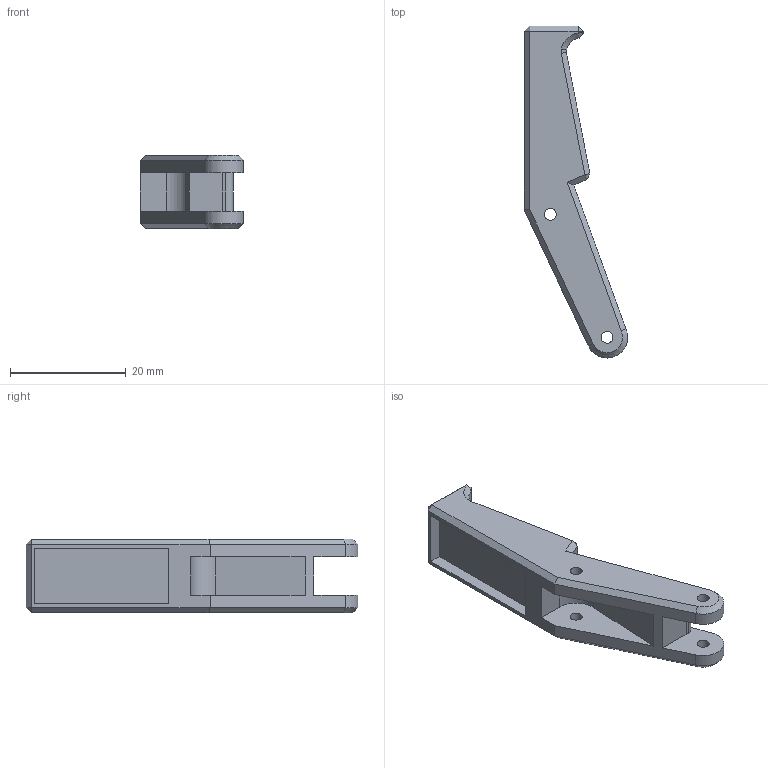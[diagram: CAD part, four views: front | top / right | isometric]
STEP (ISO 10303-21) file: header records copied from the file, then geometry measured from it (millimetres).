
FILE_DESCRIPTION(/* description */ ('STEP AP242','CAx-IF Rec.Pracs.---Representation and Presentation of Product Manufacturing Information (PMI)---4.0---2014-10-13','CAx-IF Rec.Pracs.---3D Tessellated Geometry---0.4---2014-09-14','2;1'),/* implementation_level */ '2;1');
FILE_NAME(/* name */ '6367a9f70f60637f9a1aeee0',/* time_stamp */ '2022-11-06T12:35:04+00:00',/* author */ (''),/* organization */ (''),/* preprocessor_version */ 'ST-DEVELOPER v18.102',/* originating_system */ ' ',/* authorisation */ ' ');
FILE_SCHEMA (('AP242_MANAGED_MODEL_BASED_3D_ENGINEERING_MIM_LF { 1 0 10303 442 1 1 4 }'));
Length unit declared in the file: metre
Products named in the file (1): Finger
Bounding box: 17.81 x 57.24 x 12.7 mm (x, y, z)
Volume: 4879.7 mm3; surface area: 3019.1 mm2
Topology: 1 solids, 1 shells, 64 faces, 147 edges, 86 vertices
Faces by surface type: plane 50, cylinder 10, cone 4
Full cylindrical faces by diameter (mm): 2.032 x4
Entity records: 1769 total; most frequent: CARTESIAN_POINT 306, DIRECTION 293, ORIENTED_EDGE 286, EDGE_CURVE 143, LINE 115, VECTOR 115, AXIS2_PLACEMENT_3D 89, VERTEX_POINT 86
